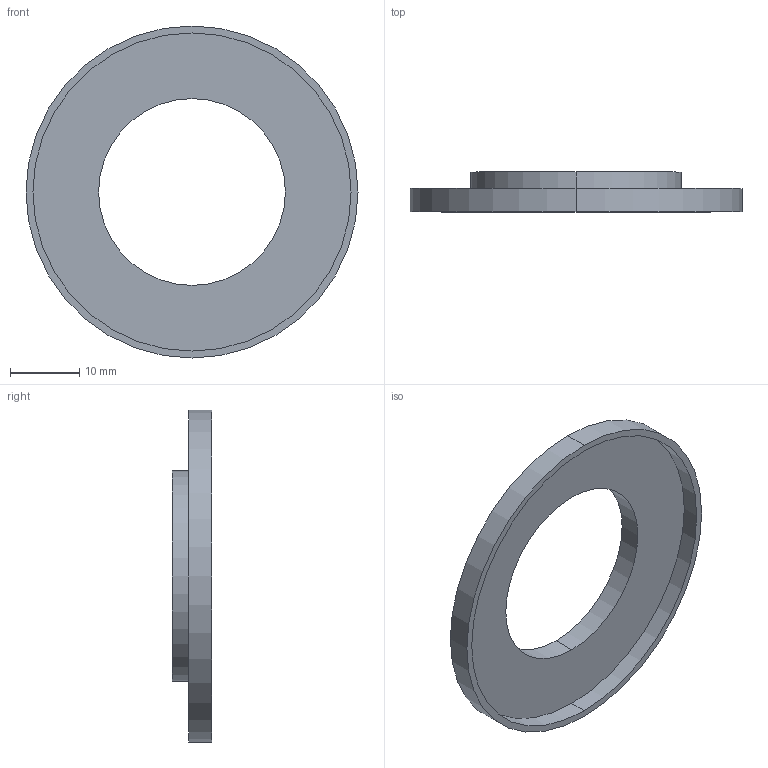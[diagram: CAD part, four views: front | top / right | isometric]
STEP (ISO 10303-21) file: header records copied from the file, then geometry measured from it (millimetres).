
FILE_DESCRIPTION (( 'STEP AP214' ), '1' );
FILE_NAME ('SU30.5-46.STEP', '2019-04-03T14:55:30', ( '' ), ( '' ), 'SwSTEP 2.0', 'SolidWorks 2019', '' );
FILE_SCHEMA (( 'AUTOMOTIVE_DESIGN' ));
Length unit declared in the file: millimetre
Products named in the file (1): SU30.5-46
Bounding box: 48 x 5.75 x 48 mm (x, y, z)
Volume: 1777.9 mm3; surface area: 3849.6 mm2
Topology: 1 solids, 1 shells, 12 faces, 24 edges, 16 vertices
Faces by surface type: cylinder 8, plane 4
Entity records: 362 total; most frequent: DIRECTION 66, CARTESIAN_POINT 53, ORIENTED_EDGE 48, AXIS2_PLACEMENT_3D 29, EDGE_CURVE 24, VERTEX_POINT 16, CIRCLE 16, EDGE_LOOP 16
